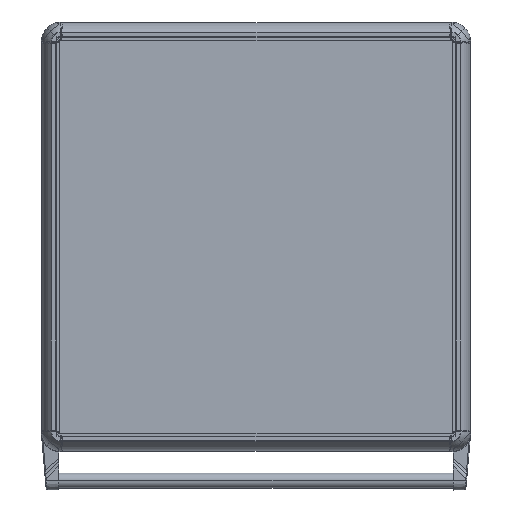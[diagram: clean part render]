
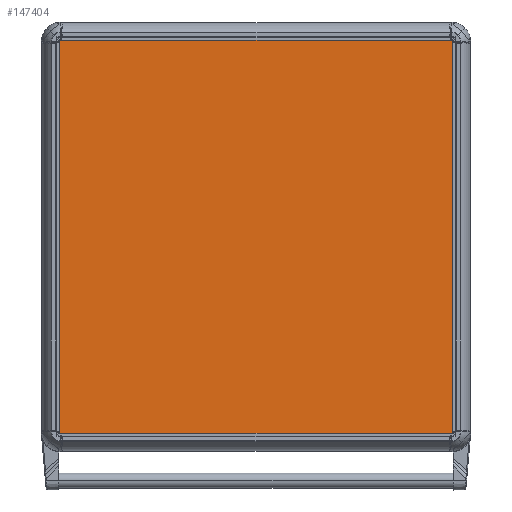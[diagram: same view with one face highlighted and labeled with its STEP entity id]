
A CAD part, top view. The second image highlights one B-rep face of the part: STEP entity #147404.
In plain terms, the highlighted planar face has unit normal (0, 0, 1).
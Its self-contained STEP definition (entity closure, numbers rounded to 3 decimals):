
#1724 = VECTOR ( 'NONE', #126356, 1000. ) ;
#2539 = VERTEX_POINT ( 'NONE', #97222 ) ;
#9374 = CARTESIAN_POINT ( 'NONE',  ( -250., -250., 2. ) ) ;
#16855 = CARTESIAN_POINT ( 'NONE',  ( -250., 250., 2. ) ) ;
#20165 = DIRECTION ( 'NONE',  ( 0., 0., 1. ) ) ;
#23105 = VERTEX_POINT ( 'NONE', #9374 ) ;
#23217 = PLANE ( 'NONE',  #49825 ) ;
#40027 = ORIENTED_EDGE ( 'NONE', *, *, #100657, .T. ) ;
#49825 = AXIS2_PLACEMENT_3D ( 'NONE', #70842, #20165, #118497 ) ;
#64812 = CARTESIAN_POINT ( 'NONE',  ( 250., 250., 2. ) ) ;
#70842 = CARTESIAN_POINT ( 'NONE',  ( 0., 0., 2. ) ) ;
#76165 = EDGE_LOOP ( 'NONE', ( #103660, #145007, #114352, #40027 ) ) ;
#76566 = EDGE_CURVE ( 'NONE', #78754, #23105, #78668, .T. ) ;
#76843 = EDGE_CURVE ( 'NONE', #132011, #78754, #147428, .T. ) ;
#78668 = LINE ( 'NONE', #99855, #1724 ) ;
#78754 = VERTEX_POINT ( 'NONE', #137789 ) ;
#94358 = CARTESIAN_POINT ( 'NONE',  ( 250., 250., 2. ) ) ;
#97222 = CARTESIAN_POINT ( 'NONE',  ( 250., -250., 2. ) ) ;
#99855 = CARTESIAN_POINT ( 'NONE',  ( -250., 250., 2. ) ) ;
#100657 = EDGE_CURVE ( 'NONE', #23105, #2539, #100704, .T. ) ;
#100704 = LINE ( 'NONE', #136663, #141163 ) ;
#101478 = DIRECTION ( 'NONE',  ( 1., 0., 0. ) ) ;
#103660 = ORIENTED_EDGE ( 'NONE', *, *, #116351, .T. ) ;
#107963 = VECTOR ( 'NONE', #112432, 1000. ) ;
#112432 = DIRECTION ( 'NONE',  ( 0., 1., 0. ) ) ;
#114352 = ORIENTED_EDGE ( 'NONE', *, *, #76566, .T. ) ;
#116351 = EDGE_CURVE ( 'NONE', #2539, #132011, #133564, .T. ) ;
#118497 = DIRECTION ( 'NONE',  ( 1., 0., 0. ) ) ;
#126356 = DIRECTION ( 'NONE',  ( 0., -1., 0. ) ) ;
#130250 = FACE_OUTER_BOUND ( 'NONE', #76165, .T. ) ;
#132011 = VERTEX_POINT ( 'NONE', #94358 ) ;
#133564 = LINE ( 'NONE', #64812, #107963 ) ;
#134814 = DIRECTION ( 'NONE',  ( -1., 0., 0. ) ) ;
#136663 = CARTESIAN_POINT ( 'NONE',  ( -250., -250., 2. ) ) ;
#137789 = CARTESIAN_POINT ( 'NONE',  ( -250., 250., 2. ) ) ;
#141163 = VECTOR ( 'NONE', #101478, 1000. ) ;
#145007 = ORIENTED_EDGE ( 'NONE', *, *, #76843, .T. ) ;
#147404 = ADVANCED_FACE ( 'NONE', ( #130250 ), #23217, .T. ) ;
#147428 = LINE ( 'NONE', #16855, #154152 ) ;
#154152 = VECTOR ( 'NONE', #134814, 1000. ) ;
